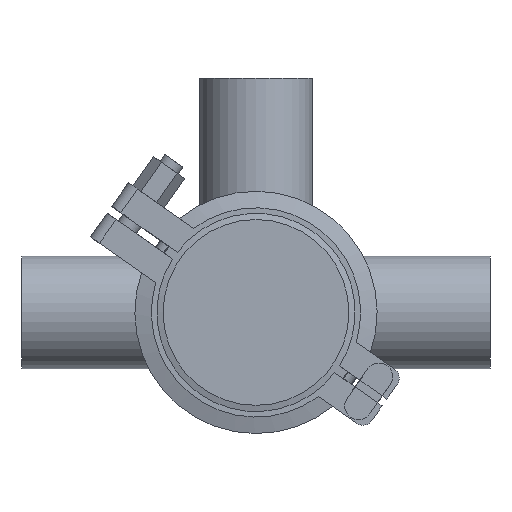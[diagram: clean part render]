
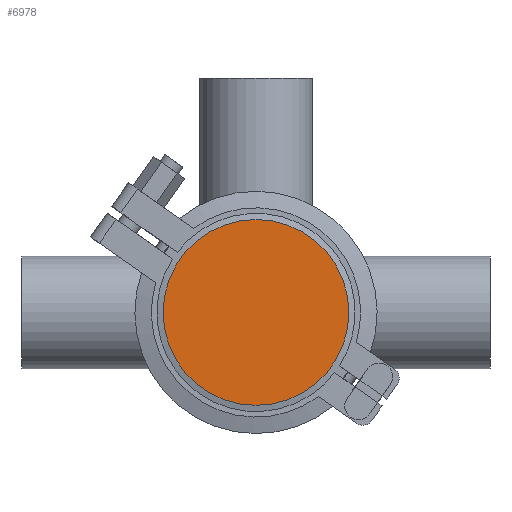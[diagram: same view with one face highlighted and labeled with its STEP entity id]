
A CAD part, front view. The second image highlights one B-rep face of the part: STEP entity #6978.
In plain terms, the highlighted planar face has unit normal (0, -1, 0).
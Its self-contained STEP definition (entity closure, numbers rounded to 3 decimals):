
#378 = DIRECTION ( 'NONE',  ( 0., 0., -1. ) ) ;
#1266 = CARTESIAN_POINT ( 'NONE',  ( 0., 0., 0. ) ) ;
#1723 = PLANE ( 'NONE',  #18837 ) ;
#3434 = EDGE_CURVE ( 'NONE', #6267, #6267, #13977, .T. ) ;
#5944 = DIRECTION ( 'NONE',  ( 0., 1., 0. ) ) ;
#6267 = VERTEX_POINT ( 'NONE', #14092 ) ;
#6978 = ADVANCED_FACE ( 'NONE', ( #14431 ), #1723, .T. ) ;
#7301 = EDGE_LOOP ( 'NONE', ( #13640 ) ) ;
#7944 = DIRECTION ( 'NONE',  ( 0., -1., 0. ) ) ;
#9783 = CARTESIAN_POINT ( 'NONE',  ( -33.75, 0., 0. ) ) ;
#12238 = DIRECTION ( 'NONE',  ( 0., 0., 1. ) ) ;
#13640 = ORIENTED_EDGE ( 'NONE', *, *, #3434, .F. ) ;
#13977 = CIRCLE ( 'NONE', #17933, 33.75 ) ;
#14092 = CARTESIAN_POINT ( 'NONE',  ( 0., 0., 33.75 ) ) ;
#14431 = FACE_OUTER_BOUND ( 'NONE', #7301, .T. ) ;
#17933 = AXIS2_PLACEMENT_3D ( 'NONE', #1266, #5944, #12238 ) ;
#18837 = AXIS2_PLACEMENT_3D ( 'NONE', #9783, #7944, #378 ) ;
